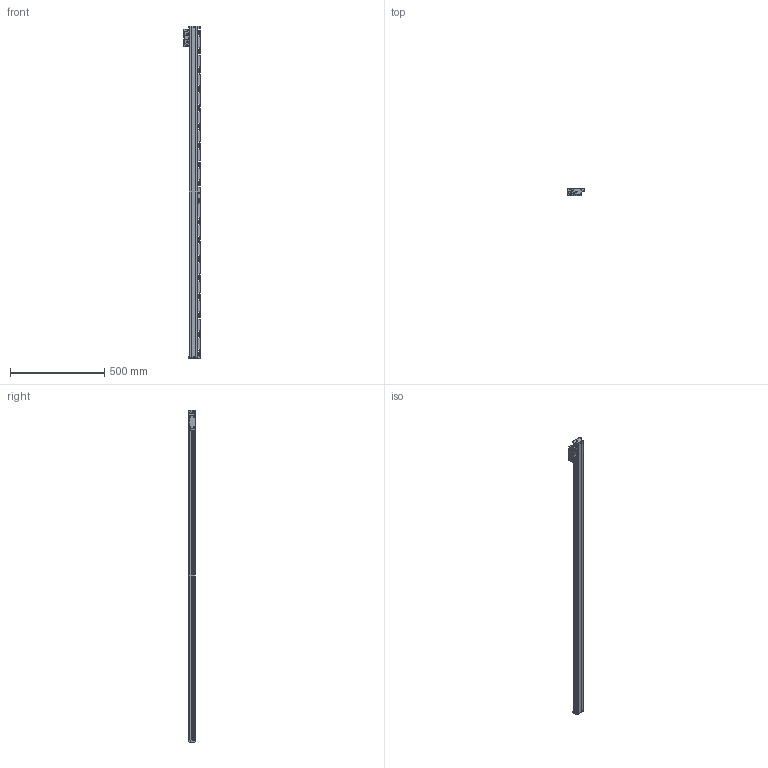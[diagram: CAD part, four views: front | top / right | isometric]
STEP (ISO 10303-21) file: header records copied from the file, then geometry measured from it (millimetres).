
FILE_DESCRIPTION(/* description */ (''),/* implementation_level */ '2;1');
FILE_NAME(/* name */ 'JC21A-1640-1.stp',/* time_stamp */ '2023-12-21T16:42:32+08:00',/* author */ (''),/* organization */ (''),/* preprocessor_version */ 'ST-DEVELOPER v14',/* originating_system */ 'SIEMENS PLM Software NX 8.0',/* authorisation */ '');
FILE_SCHEMA (('CONFIG_CONTROL_DESIGN'));
Length unit declared in the file: millimetre
Products named in the file (1): JC21A-1640-1
Bounding box: 87.5 x 37 x 1761 mm (x, y, z)
Volume: 2767740.4 mm3; surface area: 454743.8 mm2
Topology: 4 solids, 6 shells, 1053 faces, 3126 edges, 2079 vertices
Faces by surface type: plane 658, cylinder 363, cone 22, bspline 8, extrusion 2
Full cylindrical faces by diameter (mm): 2.5 x12, 3.3 x6, 3.7 x4, 4.2 x4, 5 x2, 6 x6, 6.6 x2, 6.8 x20, 7 x2, 13.2 x2
Entity records: 35949 total; most frequent: CARTESIAN_POINT 7311, ORIENTED_EDGE 6016, DIRECTION 5936, EDGE_CURVE 3008, VERTEX_POINT 2043, AXIS2_PLACEMENT_3D 1985, VECTOR 1966, LINE 1964
